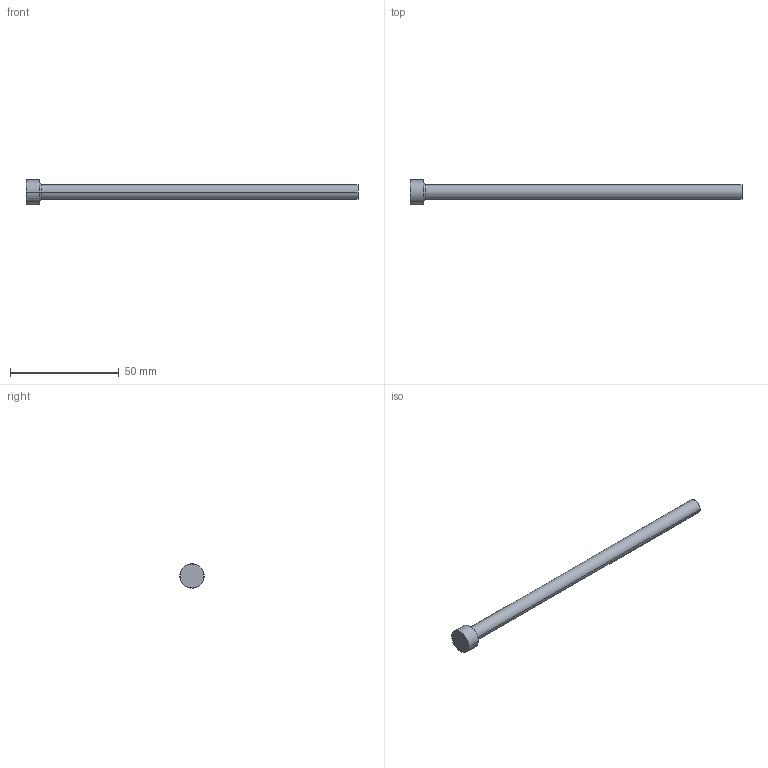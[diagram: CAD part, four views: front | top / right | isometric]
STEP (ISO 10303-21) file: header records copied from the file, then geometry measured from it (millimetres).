
FILE_DESCRIPTION (( 'STEP AP214' ), '1' );
FILE_NAME ('P18-6.STEP', '2020-03-12T08:51:47', ( '' ), ( '' ), 'SwSTEP 2.0', 'SolidWorks 2018', '' );
FILE_SCHEMA (( 'AUTOMOTIVE_DESIGN' ));
Length unit declared in the file: inch
Products named in the file (1): P18-6
Bounding box: 152.4 x 11.11 x 11.11 mm (x, y, z)
Volume: 5828 mm3; surface area: 3497 mm2
Topology: 1 solids, 1 shells, 13 faces, 24 edges, 14 vertices
Faces by surface type: cone 4, cylinder 4, plane 3, torus 2
Entity records: 366 total; most frequent: DIRECTION 68, CARTESIAN_POINT 52, ORIENTED_EDGE 48, AXIS2_PLACEMENT_3D 30, EDGE_CURVE 24, CIRCLE 16, VERTEX_POINT 14, EDGE_LOOP 14
